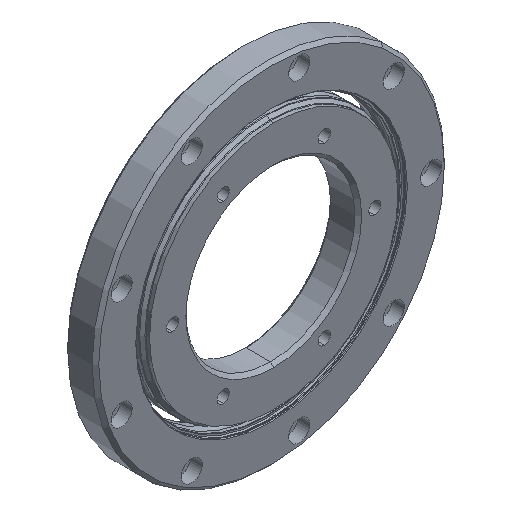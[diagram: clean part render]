
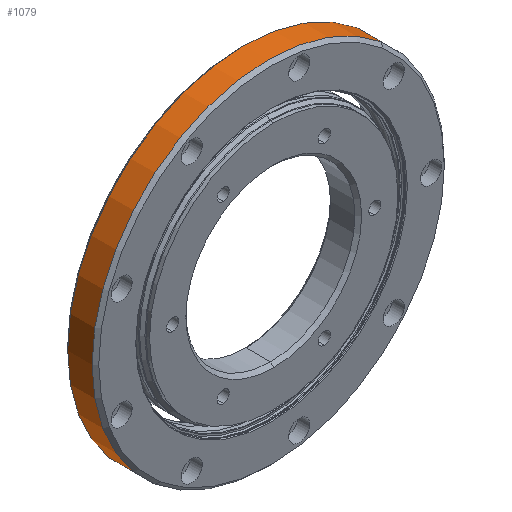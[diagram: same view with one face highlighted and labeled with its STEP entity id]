
A CAD part, isometric view. The second image highlights one B-rep face of the part: STEP entity #1079.
In plain terms, the highlighted cylindrical face has radius 79.375 mm (diameter 158.75 mm), a partial arc.
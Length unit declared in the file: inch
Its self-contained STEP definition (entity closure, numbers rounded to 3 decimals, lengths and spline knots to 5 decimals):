
#200 = DIRECTION ( 'NONE',  ( 0., 1., 0. ) ) ;
#288 = ORIENTED_EDGE ( 'NONE', *, *, #1506, .T. ) ;
#297 = VECTOR ( 'NONE', #2449, 39.37008 ) ;
#323 = CARTESIAN_POINT ( 'NONE',  ( 0., 0., 0. ) ) ;
#329 = CARTESIAN_POINT ( 'NONE',  ( 0., 0., 3.125 ) ) ;
#473 = CARTESIAN_POINT ( 'NONE',  ( 0., 0.5315, 0. ) ) ;
#840 = DIRECTION ( 'NONE',  ( 0., 0., -1. ) ) ;
#1079 = ADVANCED_FACE ( 'NONE', ( #4099 ), #2626, .T. ) ;
#1214 = ORIENTED_EDGE ( 'NONE', *, *, #2900, .T. ) ;
#1464 = VERTEX_POINT ( 'NONE', #4043 ) ;
#1506 = EDGE_CURVE ( 'NONE', #3753, #2215, #3382, .T. ) ;
#1579 = VERTEX_POINT ( 'NONE', #2739 ) ;
#1634 = EDGE_CURVE ( 'NONE', #2215, #1579, #3986, .T. ) ;
#1841 = EDGE_CURVE ( 'NONE', #1464, #1579, #4038, .T. ) ;
#1890 = CARTESIAN_POINT ( 'NONE',  ( 0., 0.09843, -3.125 ) ) ;
#1984 = CARTESIAN_POINT ( 'NONE',  ( 0., 0., -3.125 ) ) ;
#2215 = VERTEX_POINT ( 'NONE', #1890 ) ;
#2310 = CARTESIAN_POINT ( 'NONE',  ( 0., 0.09843, 0. ) ) ;
#2401 = AXIS2_PLACEMENT_3D ( 'NONE', #323, #4178, #4448 ) ;
#2449 = DIRECTION ( 'NONE',  ( 0., -1., 0. ) ) ;
#2626 = CYLINDRICAL_SURFACE ( 'NONE', #2401, 3.125 ) ;
#2657 = DIRECTION ( 'NONE',  ( 0., 0., -1. ) ) ;
#2739 = CARTESIAN_POINT ( 'NONE',  ( 0., 0.09843, 3.125 ) ) ;
#2900 = EDGE_CURVE ( 'NONE', #1464, #3753, #4466, .T. ) ;
#2937 = DIRECTION ( 'NONE',  ( 0., -1., 0. ) ) ;
#3091 = ORIENTED_EDGE ( 'NONE', *, *, #1841, .F. ) ;
#3382 = LINE ( 'NONE', #1984, #4322 ) ;
#3495 = EDGE_LOOP ( 'NONE', ( #3091, #1214, #288, #3915 ) ) ;
#3544 = CARTESIAN_POINT ( 'NONE',  ( 0., 0.5315, -3.125 ) ) ;
#3753 = VERTEX_POINT ( 'NONE', #3544 ) ;
#3915 = ORIENTED_EDGE ( 'NONE', *, *, #1634, .T. ) ;
#3986 = CIRCLE ( 'NONE', #4397, 3.125 ) ;
#4038 = LINE ( 'NONE', #329, #297 ) ;
#4043 = CARTESIAN_POINT ( 'NONE',  ( 0., 0.5315, 3.125 ) ) ;
#4071 = DIRECTION ( 'NONE',  ( 0., -1., 0. ) ) ;
#4099 = FACE_OUTER_BOUND ( 'NONE', #3495, .T. ) ;
#4178 = DIRECTION ( 'NONE',  ( 0., -1., 0. ) ) ;
#4267 = AXIS2_PLACEMENT_3D ( 'NONE', #473, #2937, #840 ) ;
#4322 = VECTOR ( 'NONE', #4071, 39.37008 ) ;
#4397 = AXIS2_PLACEMENT_3D ( 'NONE', #2310, #200, #2657 ) ;
#4448 = DIRECTION ( 'NONE',  ( 0., 0., -1. ) ) ;
#4466 = CIRCLE ( 'NONE', #4267, 3.125 ) ;
